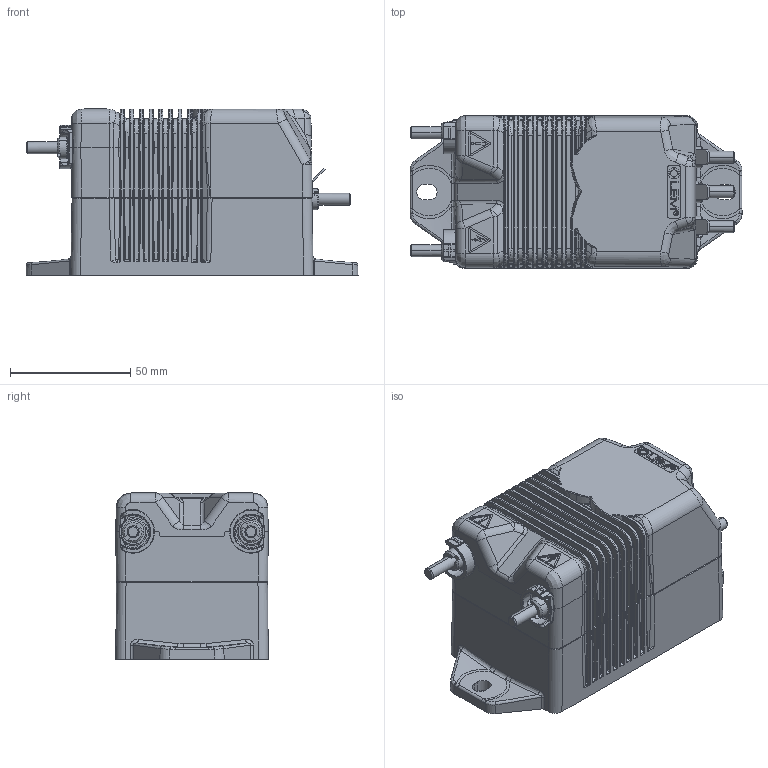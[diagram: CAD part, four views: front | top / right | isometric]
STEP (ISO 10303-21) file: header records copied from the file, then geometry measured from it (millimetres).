
FILE_DESCRIPTION(('Creo Elements/Direct Modeling STEP Export'),'2;1');
FILE_NAME('B.stp','2016-05-11T14:24:44',(''),(''),'PTC Creo Elements/Direct Modeling STEP processor for AP214 (Solid Model)','PTC Creo Elements/Direct Modeling 19.0B 21-Mar-2015 (C) Parametric Technology GmbH','');
FILE_SCHEMA(('AUTOMOTIVE_DESIGN { 1 0 10303 214 1 1 1 1 }'));
Products named in the file (2): BLACKBOX_OUTLINE_B
Assembly tree (1 placements, depth 2):
  BLACKBOX_OUTLINE_B
    BLACKBOX_OUTLINE_B
Bounding box: 138 x 63.4 x 69.2 mm (x, y, z)
Volume: 401598.4 mm3; surface area: 56585.1 mm2
Topology: 1 solids, 1 shells, 2859 faces, 7085 edges, 4277 vertices
Faces by surface type: bspline 1007, plane 884, cylinder 771, cone 106, torus 71, sphere 20
Entity records: 166874 total; most frequent: CARTESIAN_POINT 108446, ORIENTED_EDGE 14106, DIRECTION 7511, EDGE_CURVE 7053, VERTEX_POINT 4277, EDGE_LOOP 2944, FACE_OUTER_BOUND 2859, ADVANCED_FACE 2859
